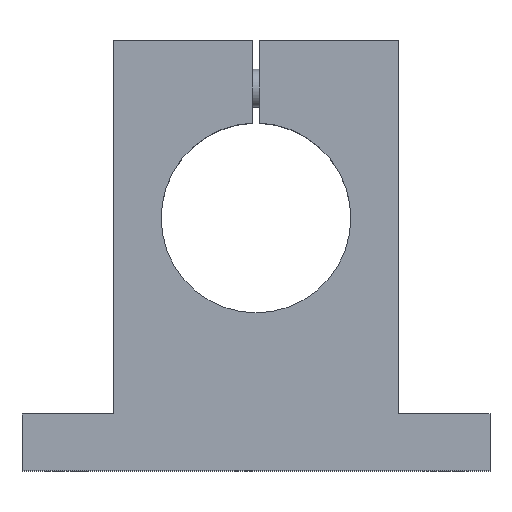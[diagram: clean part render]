
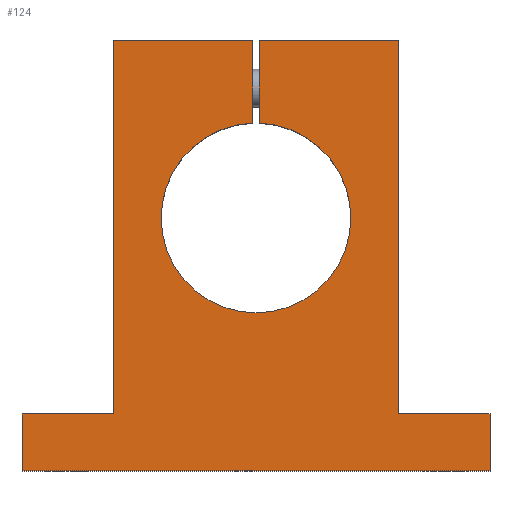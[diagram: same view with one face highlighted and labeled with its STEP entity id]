
A CAD part, top view. The second image highlights one B-rep face of the part: STEP entity #124.
In plain terms, the highlighted planar face has unit normal (0, 0, 1).
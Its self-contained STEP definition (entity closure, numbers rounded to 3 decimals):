
#124=ADVANCED_FACE('',(#161),#162,.F.);
#161=FACE_OUTER_BOUND('',#249,.T.);
#162=PLANE('',#250);
#249=EDGE_LOOP('',(#342,#343,#344,#345,#346,#347,#348,#349,#350,#351,#352,#353));
#250=AXIS2_PLACEMENT_3D('',#354,#355,#356);
#342=ORIENTED_EDGE('',*,*,#581,.T.);
#343=ORIENTED_EDGE('',*,*,#582,.T.);
#344=ORIENTED_EDGE('',*,*,#583,.T.);
#345=ORIENTED_EDGE('',*,*,#584,.T.);
#346=ORIENTED_EDGE('',*,*,#585,.T.);
#347=ORIENTED_EDGE('',*,*,#586,.T.);
#348=ORIENTED_EDGE('',*,*,#587,.T.);
#349=ORIENTED_EDGE('',*,*,#588,.T.);
#350=ORIENTED_EDGE('',*,*,#589,.T.);
#351=ORIENTED_EDGE('',*,*,#590,.T.);
#352=ORIENTED_EDGE('',*,*,#591,.T.);
#353=ORIENTED_EDGE('',*,*,#579,.T.);
#354=CARTESIAN_POINT('',(0.0,80.0,45.0));
#355=DIRECTION('',(0.0,0.0,-1.0));
#356=DIRECTION('',(1.0,0.,0.0));
#579=EDGE_CURVE('',#653,#651,#654,.T.);
#581=EDGE_CURVE('',#651,#656,#657,.T.);
#582=EDGE_CURVE('',#656,#658,#659,.T.);
#583=EDGE_CURVE('',#658,#660,#661,.T.);
#584=EDGE_CURVE('',#660,#662,#663,.T.);
#585=EDGE_CURVE('',#662,#664,#665,.T.);
#586=EDGE_CURVE('',#664,#666,#667,.T.);
#587=EDGE_CURVE('',#666,#668,#669,.T.);
#588=EDGE_CURVE('',#668,#670,#671,.T.);
#589=EDGE_CURVE('',#670,#672,#673,.T.);
#590=EDGE_CURVE('',#672,#674,#675,.T.);
#591=EDGE_CURVE('',#674,#653,#676,.T.);
#651=VERTEX_POINT('',#774);
#653=VERTEX_POINT('',#777);
#654=LINE('',#778,#779);
#656=VERTEX_POINT('',#782);
#657=LINE('',#783,#784);
#658=VERTEX_POINT('',#785);
#659=LINE('',#786,#787);
#660=VERTEX_POINT('',#788);
#661=LINE('',#789,#790);
#662=VERTEX_POINT('',#791);
#663=LINE('',#792,#793);
#664=VERTEX_POINT('',#794);
#665=LINE('',#795,#796);
#666=VERTEX_POINT('',#797);
#667=LINE('',#798,#799);
#668=VERTEX_POINT('',#800);
#669=LINE('',#801,#802);
#670=VERTEX_POINT('',#803);
#671=LINE('',#804,#805);
#672=VERTEX_POINT('',#806);
#673=LINE('',#807,#808);
#674=VERTEX_POINT('',#809);
#675=LINE('',#810,#811);
#676=CIRCLE('',#812,30.0);
#774=CARTESIAN_POINT('',(-1.0,136.0,45.0));
#777=CARTESIAN_POINT('',(-1.,109.983,45.0));
#778=CARTESIAN_POINT('',(-1.0,109.983,45.0));
#779=VECTOR('',#980,1.0);
#782=CARTESIAN_POINT('',(-45.0,136.0,45.0));
#783=CARTESIAN_POINT('',(-1.,136.0,45.0));
#784=VECTOR('',#982,1.0);
#785=CARTESIAN_POINT('',(-45.0,18.0,45.0));
#786=CARTESIAN_POINT('',(-45.0,136.0,45.0));
#787=VECTOR('',#983,1.0);
#788=CARTESIAN_POINT('',(-74.0,18.0,45.0));
#789=CARTESIAN_POINT('',(-45.0,18.0,45.0));
#790=VECTOR('',#984,1.0);
#791=CARTESIAN_POINT('',(-74.0,0.0,45.0));
#792=CARTESIAN_POINT('',(-74.0,18.0,45.0));
#793=VECTOR('',#985,1.0);
#794=CARTESIAN_POINT('',(74.0,0.0,45.0));
#795=CARTESIAN_POINT('',(-74.0,0.0,45.0));
#796=VECTOR('',#986,1.0);
#797=CARTESIAN_POINT('',(74.0,18.0,45.0));
#798=CARTESIAN_POINT('',(74.0,0.0,45.0));
#799=VECTOR('',#987,1.0);
#800=CARTESIAN_POINT('',(45.0,18.0,45.0));
#801=CARTESIAN_POINT('',(74.0,18.0,45.0));
#802=VECTOR('',#988,1.0);
#803=CARTESIAN_POINT('',(45.0,136.0,45.0));
#804=CARTESIAN_POINT('',(45.0,18.0,45.0));
#805=VECTOR('',#989,1.0);
#806=CARTESIAN_POINT('',(1.,136.0,45.0));
#807=CARTESIAN_POINT('',(45.0,136.0,45.0));
#808=VECTOR('',#990,1.0);
#809=CARTESIAN_POINT('',(1.0,109.983,45.0));
#810=CARTESIAN_POINT('',(1.0,136.0,45.0));
#811=VECTOR('',#991,1.0);
#812=AXIS2_PLACEMENT_3D('',#992,#993,#994);
#980=DIRECTION('',(0.,1.0,0.0));
#982=DIRECTION('',(-1.0,0.0,0.0));
#983=DIRECTION('',(0.,-1.0,0.0));
#984=DIRECTION('',(-1.0,0.0,0.0));
#985=DIRECTION('',(0.,-1.0,0.0));
#986=DIRECTION('',(1.0,0.0,0.0));
#987=DIRECTION('',(0.,1.0,0.0));
#988=DIRECTION('',(-1.0,0.0,0.0));
#989=DIRECTION('',(0.,1.0,0.0));
#990=DIRECTION('',(-1.0,0.0,0.0));
#991=DIRECTION('',(0.,-1.0,0.0));
#992=CARTESIAN_POINT('',(0.0,80.0,45.0));
#993=DIRECTION('',(0.0,0.0,-1.0));
#994=DIRECTION('',(1.0,0.,0.0));
